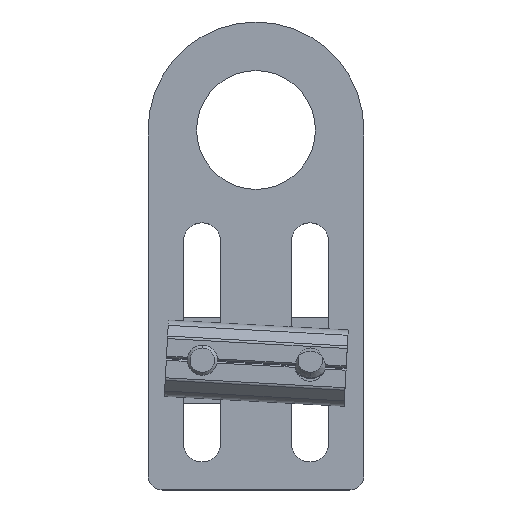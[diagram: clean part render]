
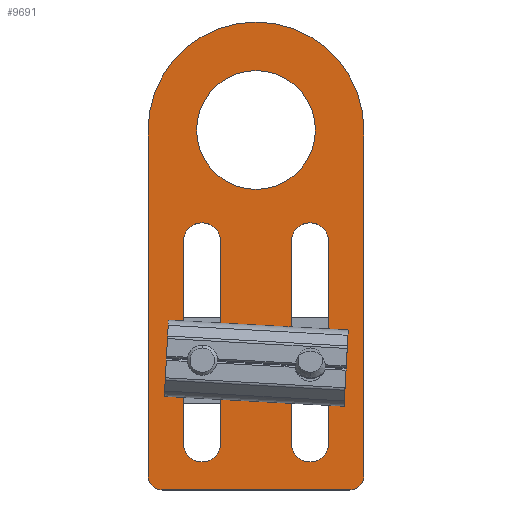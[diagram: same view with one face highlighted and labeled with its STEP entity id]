
A CAD part, top view. The second image highlights one B-rep face of the part: STEP entity #9691.
In plain terms, the highlighted planar face has unit normal (0, 0, 1).
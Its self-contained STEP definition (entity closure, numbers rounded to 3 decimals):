
#401 = VERTEX_POINT ( 'NONE', #2941 ) ;
#752 = EDGE_CURVE ( 'NONE', #14983, #9414, #13706, .T. ) ;
#821 = LINE ( 'NONE', #1985, #21310 ) ;
#936 = PLANE ( 'NONE',  #13430 ) ;
#1137 = ORIENTED_EDGE ( 'NONE', *, *, #13905, .T. ) ;
#1985 = CARTESIAN_POINT ( 'NONE',  ( -69.387, -16.588, 46.931 ) ) ;
#2228 = AXIS2_PLACEMENT_3D ( 'NONE', #17934, #4587, #17857 ) ;
#2235 = DIRECTION ( 'NONE',  ( 0., 0., 1. ) ) ;
#2449 = ORIENTED_EDGE ( 'NONE', *, *, #9765, .T. ) ;
#2486 = DIRECTION ( 'NONE',  ( -1., 0., 0. ) ) ;
#2676 = DIRECTION ( 'NONE',  ( -1., 0., 0. ) ) ;
#2702 = CARTESIAN_POINT ( 'NONE',  ( -59.587, -42.783, 46.931 ) ) ;
#2941 = CARTESIAN_POINT ( 'NONE',  ( -77.487, -49.283, 46.931 ) ) ;
#3000 = ORIENTED_EDGE ( 'NONE', *, *, #15929, .F. ) ;
#3380 = AXIS2_PLACEMENT_3D ( 'NONE', #22193, #24304, #12859 ) ;
#3807 = CIRCLE ( 'NONE', #7437, 2. ) ;
#3885 = CARTESIAN_POINT ( 'NONE',  ( -56.237, 0.717, 46.931 ) ) ;
#3939 = CARTESIAN_POINT ( 'NONE',  ( -64.487, -49.283, 46.931 ) ) ;
#4172 = DIRECTION ( 'NONE',  ( 0., 1., 0. ) ) ;
#4369 = VECTOR ( 'NONE', #10039, 1000. ) ;
#4503 = CARTESIAN_POINT ( 'NONE',  ( -59.587, -16.588, 46.931 ) ) ;
#4587 = DIRECTION ( 'NONE',  ( 0., 0., 1. ) ) ;
#4593 = EDGE_LOOP ( 'NONE', ( #16177, #8119, #19857, #12953 ) ) ;
#4899 = CIRCLE ( 'NONE', #13836, 8.25 ) ;
#5073 = ORIENTED_EDGE ( 'NONE', *, *, #7423, .T. ) ;
#5192 = VERTEX_POINT ( 'NONE', #11629 ) ;
#5295 = DIRECTION ( 'NONE',  ( -1., 0., 0. ) ) ;
#5417 = LINE ( 'NONE', #12918, #24397 ) ;
#5681 = VERTEX_POINT ( 'NONE', #13659 ) ;
#5716 = ORIENTED_EDGE ( 'NONE', *, *, #21734, .T. ) ;
#5939 = VERTEX_POINT ( 'NONE', #14228 ) ;
#6058 = EDGE_LOOP ( 'NONE', ( #11405, #10808, #7741, #20967 ) ) ;
#6079 = EDGE_CURVE ( 'NONE', #23144, #14983, #10571, .T. ) ;
#6201 = EDGE_LOOP ( 'NONE', ( #5073, #1137, #2449, #15770, #5716, #7237 ) ) ;
#6243 = DIRECTION ( 'NONE',  ( 0., 0., -1. ) ) ;
#6291 = LINE ( 'NONE', #4503, #6885 ) ;
#6564 = FACE_BOUND ( 'NONE', #6595, .T. ) ;
#6595 = EDGE_LOOP ( 'NONE', ( #8536, #3000 ) ) ;
#6793 = VERTEX_POINT ( 'NONE', #9635 ) ;
#6885 = VECTOR ( 'NONE', #4172, 1000. ) ;
#7237 = ORIENTED_EDGE ( 'NONE', *, *, #19676, .T. ) ;
#7263 = AXIS2_PLACEMENT_3D ( 'NONE', #22207, #20208, #2676 ) ;
#7423 = EDGE_CURVE ( 'NONE', #5192, #401, #17598, .T. ) ;
#7428 = DIRECTION ( 'NONE',  ( 0., 0., 1. ) ) ;
#7437 = AXIS2_PLACEMENT_3D ( 'NONE', #9234, #15169, #5295 ) ;
#7536 = CIRCLE ( 'NONE', #14185, 8.25 ) ;
#7616 = VERTEX_POINT ( 'NONE', #3885 ) ;
#7621 = CARTESIAN_POINT ( 'NONE',  ( -74.587, -14.783, 46.931 ) ) ;
#7741 = ORIENTED_EDGE ( 'NONE', *, *, #17393, .T. ) ;
#8039 = DIRECTION ( 'NONE',  ( 0., -1., 0. ) ) ;
#8103 = FACE_BOUND ( 'NONE', #4593, .T. ) ;
#8119 = ORIENTED_EDGE ( 'NONE', *, *, #752, .T. ) ;
#8149 = DIRECTION ( 'NONE',  ( 0., 0., -1. ) ) ;
#8320 = CARTESIAN_POINT ( 'NONE',  ( -56.987, -42.783, 46.931 ) ) ;
#8536 = ORIENTED_EDGE ( 'NONE', *, *, #9079, .F. ) ;
#8747 = CIRCLE ( 'NONE', #3380, 2.6 ) ;
#9079 = EDGE_CURVE ( 'NONE', #12664, #7616, #7536, .T. ) ;
#9178 = DIRECTION ( 'NONE',  ( -1., 0., 0. ) ) ;
#9234 = CARTESIAN_POINT ( 'NONE',  ( -51.487, -47.283, 46.931 ) ) ;
#9358 = VERTEX_POINT ( 'NONE', #10083 ) ;
#9414 = VERTEX_POINT ( 'NONE', #19488 ) ;
#9569 = CIRCLE ( 'NONE', #24875, 2.6 ) ;
#9583 = VERTEX_POINT ( 'NONE', #2702 ) ;
#9635 = CARTESIAN_POINT ( 'NONE',  ( -51.487, -49.283, 46.931 ) ) ;
#9691 = ADVANCED_FACE ( 'NONE', ( #10196, #6564, #8103, #17071 ), #936, .T. ) ;
#9765 = EDGE_CURVE ( 'NONE', #6793, #9358, #3807, .T. ) ;
#9893 = DIRECTION ( 'NONE',  ( -1., 0., 0. ) ) ;
#9964 = VERTEX_POINT ( 'NONE', #15818 ) ;
#9970 = CIRCLE ( 'NONE', #2228, 15. ) ;
#10039 = DIRECTION ( 'NONE',  ( 1., 0., 0. ) ) ;
#10083 = CARTESIAN_POINT ( 'NONE',  ( -49.487, -47.283, 46.931 ) ) ;
#10196 = FACE_BOUND ( 'NONE', #6058, .T. ) ;
#10270 = AXIS2_PLACEMENT_3D ( 'NONE', #17668, #6243, #9893 ) ;
#10327 = LINE ( 'NONE', #23626, #20841 ) ;
#10571 = LINE ( 'NONE', #14788, #16518 ) ;
#10808 = ORIENTED_EDGE ( 'NONE', *, *, #12889, .T. ) ;
#11122 = CIRCLE ( 'NONE', #10270, 2.6 ) ;
#11139 = CARTESIAN_POINT ( 'NONE',  ( -72.737, 0.717, 46.931 ) ) ;
#11405 = ORIENTED_EDGE ( 'NONE', *, *, #15076, .T. ) ;
#11629 = CARTESIAN_POINT ( 'NONE',  ( -79.487, -47.283, 46.931 ) ) ;
#11905 = CARTESIAN_POINT ( 'NONE',  ( -79.487, 0.717, 46.931 ) ) ;
#12555 = EDGE_CURVE ( 'NONE', #19072, #23144, #8747, .T. ) ;
#12664 = VERTEX_POINT ( 'NONE', #11139 ) ;
#12859 = DIRECTION ( 'NONE',  ( -1., 0., 0. ) ) ;
#12889 = EDGE_CURVE ( 'NONE', #9964, #9583, #9569, .T. ) ;
#12918 = CARTESIAN_POINT ( 'NONE',  ( -79.487, -16.588, 46.931 ) ) ;
#12931 = DIRECTION ( 'NONE',  ( 0., 0., 1. ) ) ;
#12953 = ORIENTED_EDGE ( 'NONE', *, *, #12555, .T. ) ;
#13430 = AXIS2_PLACEMENT_3D ( 'NONE', #22727, #7428, #16737 ) ;
#13659 = CARTESIAN_POINT ( 'NONE',  ( -59.587, -14.783, 46.931 ) ) ;
#13706 = CIRCLE ( 'NONE', #7263, 2.6 ) ;
#13836 = AXIS2_PLACEMENT_3D ( 'NONE', #24465, #15004, #9178 ) ;
#13905 = EDGE_CURVE ( 'NONE', #401, #6793, #15207, .T. ) ;
#14185 = AXIS2_PLACEMENT_3D ( 'NONE', #24471, #12931, #20664 ) ;
#14228 = CARTESIAN_POINT ( 'NONE',  ( -49.487, 0.717, 46.931 ) ) ;
#14361 = DIRECTION ( 'NONE',  ( -1., 0., 0. ) ) ;
#14652 = EDGE_CURVE ( 'NONE', #9358, #5939, #10327, .T. ) ;
#14788 = CARTESIAN_POINT ( 'NONE',  ( -74.587, -16.588, 46.931 ) ) ;
#14983 = VERTEX_POINT ( 'NONE', #7621 ) ;
#15004 = DIRECTION ( 'NONE',  ( 0., 0., 1. ) ) ;
#15008 = EDGE_CURVE ( 'NONE', #5681, #22327, #11122, .T. ) ;
#15076 = EDGE_CURVE ( 'NONE', #22327, #9964, #22869, .T. ) ;
#15169 = DIRECTION ( 'NONE',  ( 0., 0., 1. ) ) ;
#15207 = LINE ( 'NONE', #3939, #4369 ) ;
#15770 = ORIENTED_EDGE ( 'NONE', *, *, #14652, .T. ) ;
#15818 = CARTESIAN_POINT ( 'NONE',  ( -54.387, -42.783, 46.931 ) ) ;
#15929 = EDGE_CURVE ( 'NONE', #7616, #12664, #4899, .T. ) ;
#16177 = ORIENTED_EDGE ( 'NONE', *, *, #6079, .T. ) ;
#16518 = VECTOR ( 'NONE', #22597, 1000. ) ;
#16737 = DIRECTION ( 'NONE',  ( 1., 0., 0. ) ) ;
#17071 = FACE_OUTER_BOUND ( 'NONE', #6201, .T. ) ;
#17393 = EDGE_CURVE ( 'NONE', #9583, #5681, #6291, .T. ) ;
#17598 = CIRCLE ( 'NONE', #21688, 2. ) ;
#17668 = CARTESIAN_POINT ( 'NONE',  ( -56.987, -14.783, 46.931 ) ) ;
#17745 = VECTOR ( 'NONE', #8039, 1000. ) ;
#17857 = DIRECTION ( 'NONE',  ( -1., 0., 0. ) ) ;
#17934 = CARTESIAN_POINT ( 'NONE',  ( -64.487, 0.717, 46.931 ) ) ;
#18599 = CARTESIAN_POINT ( 'NONE',  ( -74.587, -42.783, 46.931 ) ) ;
#19072 = VERTEX_POINT ( 'NONE', #21864 ) ;
#19488 = CARTESIAN_POINT ( 'NONE',  ( -69.387, -14.783, 46.931 ) ) ;
#19676 = EDGE_CURVE ( 'NONE', #19994, #5192, #5417, .T. ) ;
#19736 = CARTESIAN_POINT ( 'NONE',  ( -54.387, -16.588, 46.931 ) ) ;
#19857 = ORIENTED_EDGE ( 'NONE', *, *, #22747, .T. ) ;
#19994 = VERTEX_POINT ( 'NONE', #11905 ) ;
#20208 = DIRECTION ( 'NONE',  ( 0., 0., -1. ) ) ;
#20586 = DIRECTION ( 'NONE',  ( 0., -1., 0. ) ) ;
#20664 = DIRECTION ( 'NONE',  ( -1., 0., 0. ) ) ;
#20841 = VECTOR ( 'NONE', #23964, 1000. ) ;
#20967 = ORIENTED_EDGE ( 'NONE', *, *, #15008, .T. ) ;
#21310 = VECTOR ( 'NONE', #22852, 1000. ) ;
#21688 = AXIS2_PLACEMENT_3D ( 'NONE', #22269, #2235, #14361 ) ;
#21734 = EDGE_CURVE ( 'NONE', #5939, #19994, #9970, .T. ) ;
#21864 = CARTESIAN_POINT ( 'NONE',  ( -69.387, -42.783, 46.931 ) ) ;
#22193 = CARTESIAN_POINT ( 'NONE',  ( -71.987, -42.783, 46.931 ) ) ;
#22207 = CARTESIAN_POINT ( 'NONE',  ( -71.987, -14.783, 46.931 ) ) ;
#22269 = CARTESIAN_POINT ( 'NONE',  ( -77.487, -47.283, 46.931 ) ) ;
#22327 = VERTEX_POINT ( 'NONE', #23325 ) ;
#22597 = DIRECTION ( 'NONE',  ( 0., 1., 0. ) ) ;
#22727 = CARTESIAN_POINT ( 'NONE',  ( -79.487, -49.283, 46.931 ) ) ;
#22747 = EDGE_CURVE ( 'NONE', #9414, #19072, #821, .T. ) ;
#22852 = DIRECTION ( 'NONE',  ( 0., -1., 0. ) ) ;
#22869 = LINE ( 'NONE', #19736, #17745 ) ;
#23144 = VERTEX_POINT ( 'NONE', #18599 ) ;
#23325 = CARTESIAN_POINT ( 'NONE',  ( -54.387, -14.783, 46.931 ) ) ;
#23626 = CARTESIAN_POINT ( 'NONE',  ( -49.487, -16.588, 46.931 ) ) ;
#23964 = DIRECTION ( 'NONE',  ( 0., 1., 0. ) ) ;
#24304 = DIRECTION ( 'NONE',  ( 0., 0., -1. ) ) ;
#24397 = VECTOR ( 'NONE', #20586, 1000. ) ;
#24465 = CARTESIAN_POINT ( 'NONE',  ( -64.487, 0.717, 46.931 ) ) ;
#24471 = CARTESIAN_POINT ( 'NONE',  ( -64.487, 0.717, 46.931 ) ) ;
#24875 = AXIS2_PLACEMENT_3D ( 'NONE', #8320, #8149, #2486 ) ;
